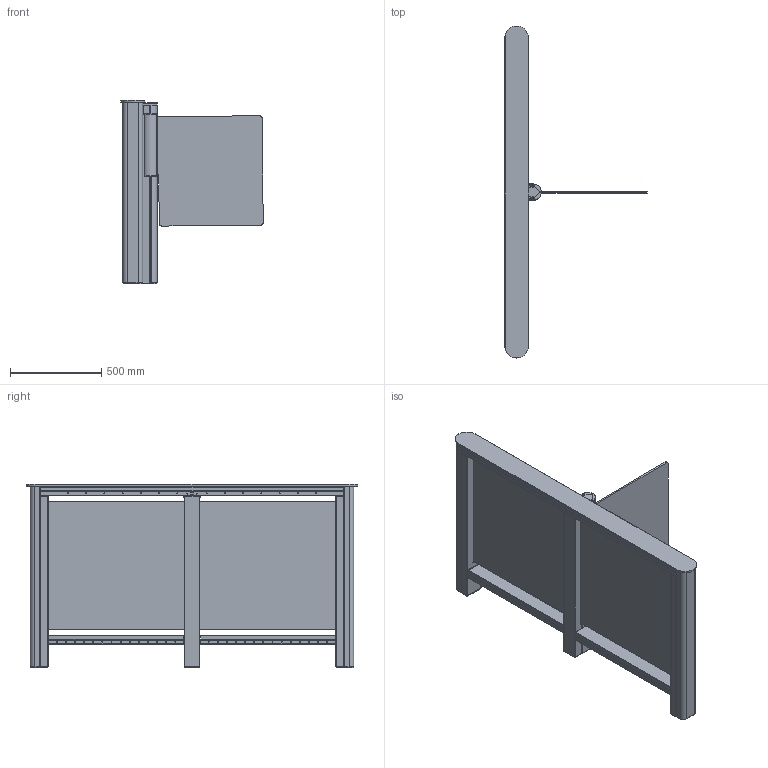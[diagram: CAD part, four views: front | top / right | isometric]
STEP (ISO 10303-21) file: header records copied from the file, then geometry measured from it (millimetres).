
FILE_DESCRIPTION(/* description */ ('Unknown'),/* implementation_level */ '2;1');
FILE_NAME(/* name */ 'ST-01_M_S_1200',/* time_stamp */ '2021-12-23T11:33:22+03:00',/* author */ ('Unknown'),/* organization */ ('Unknown'),/* preprocessor_version */ 'ST-DEVELOPER v18.1',/* originating_system */ 'Solid Edge',/* authorisation */ 'Unknown');
FILE_SCHEMA (('CONFIG_CONTROL_DESIGN'));
Products named in the file (113): ST-01_M_S; ST-01.1.006.00 砎魤鍱_oa_0; ST-01.1.002.00 栺鍣罻_oa_1; ST-01.1.002.02 砑僔蠂縺; ST-01.1.005.08 扻豵鵨; ST-01.1.031.00 沓劌錪 瀔魤鍱趌oa_2; ST-01.1.036.00 昜闉趌oa_3; BG65x25+PLG52+mufta_oa_4; ST-01.045.00ﾑﾁ ﾊ濱oa_5; ST-01.046.00 ﾊ濱oa_6; ST-01.046.09 Êîæóõ-Ïî óìîë÷àíèþ; ST-01.047.00 扰鍙欙樥燲oa_7; ST-01.760.00 Ïëàòà ýëåêòðîïðèâîäà_oa_8; ST-01.920.00 Êàáåëü ñîåäèíåíèÿ CAN; ST-01.1.004.00捘 昜闉趌oa_9; ST-01.008.00 ﾊ濱oa_10; ST-01.008.05 Êîæóõ; ST-01.008.00 ﾊ濱oa_11; ST-01.900.00 Êàáåëü ñîåäèíåíèÿ  DC; Äæàìïåð MJ-0_13; 淟檍瀖睯貗; ST-01.1.010.00ﾑﾁ ﾊ濱oa_12; ST-01.740.00 Ïëàòà èíäèêàòîðíîé ñòîéêè_oa_13; ST-01.1.010.10 Ñòåêëî-Ïî óìîë÷àíèþ; ST-01.1.011.00 ﾊ濱oa_14; ST-01.1.011.05 署赅; ST-01.1.009.00捘 扻豵鵨_oa_15; ST-01.009.25 Êîæóõ; ST-01.1.009.07 扻豵鵨; ST-01.013.00 扻豂塺oa_16; ST-01.1.016.00 扻豂塺oa_17; ST-01.1.015.00 扻豂塺oa_18; ST-01.1.015.05 Êîðîá; Øïèëüêè ñáîðêà_oa_19; Øïèëüêè ñáîðêà_oa_20; Øïèëüêè ñáîðêà 2_oa_21; Øïèëüêè ñáîðêà 2_oa_22; Øïèëüêè ñáîðêà_oa_23; Øïèëüêè ñáîðêà_oa_24; Øïèëüêè ñáîðêà 2_oa_25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
Assembly tree (137 placements, depth 5):
  ST-01_M_S
    ST-01.1.006.00 砎魤鍱_oa_0
      ST-01.1.002.00 栺鍣罻_oa_1
        ST-01.1.002.02 砑僔蠂縺
      ST-01.1.005.08 扻豵鵨
      ST-01.1.031.00 沓劌錪 瀔魤鍱趌oa_2
        ST-01.1.036.00 昜闉趌oa_3
        BG65x25+PLG52+mufta_oa_4
      ST-01.045.00ﾑﾁ ﾊ濱oa_5
        ST-01.046.00 ﾊ濱oa_6
          ST-01.046.09 Êîæóõ-Ïî óìîë÷àíèþ
        ST-01.047.00 扰鍙欙樥燲oa_7
      ST-01.760.00 Ïëàòà ýëåêòðîïðèâîäà_oa_8
      ST-01.920.00 Êàáåëü ñîåäèíåíèÿ CAN
      ST-01.1.004.00捘 昜闉趌oa_9
      ST-01.008.00 ﾊ濱oa_10
        ST-01.008.05 Êîæóõ
      ST-01.008.00 ﾊ濱oa_11
        ST-01.008.05 Êîæóõ
      ST-01.900.00 Êàáåëü ñîåäèíåíèÿ  DC
      Äæàìïåð MJ-0_13
      淟檍瀖睯貗  x3
    ST-01.1.010.00ﾑﾁ ﾊ濱oa_12
      ST-01.740.00 Ïëàòà èíäèêàòîðíîé ñòîéêè_oa_13
      ST-01.1.010.10 Ñòåêëî-Ïî óìîë÷àíèþ
      ST-01.1.011.00 ﾊ濱oa_14
        ST-01.1.011.05 署赅
      ST-01.1.009.00捘 扻豵鵨_oa_15
        ST-01.009.25 Êîæóõ
        ST-01.1.009.07 扻豵鵨
    ST-01.013.00 扻豂塺oa_16
      ST-01.1.016.00 扻豂塺oa_17
        ST-01.1.015.00 扻豂塺oa_18
          ST-01.1.015.05 Êîðîá
          Øïèëüêè ñáîðêà_oa_19
          Øïèëüêè ñáîðêà_oa_20
          Øïèëüêè ñáîðêà 2_oa_21
          Øïèëüêè ñáîðêà 2_oa_22
          Øïèëüêè ñáîðêà_oa_23
          Øïèëüêè ñáîðêà_oa_24
          Øïèëüêè ñáîðêà 2_oa_25
          Øïèëüêè ñáîðêà 2_oa_26
          Øïèëüêà âèðò
        ST-01.016.05 Êîðîá--01
      ST-01.017.00 Ïëàñòèíà â ñáîðå_oa_27
      ST-01.706.00 Ïëàòà ïðèåìíèêîâ_oa_28
      ST-01.706.00 Ïëàòà ïðèåìíèêîâ_oa_29
      ST-01.716.00 Ïëàòà ïðèåìíèêîâ_oa_30
      ST-01.716.00 Ïëàòà ïðèåìíèêîâ_oa_31
      ST-01.050.15 Ïëàñòèíà (ñâåòîôèëüòð)-795  x2
      Ëåíòà ìîíòàíæíàÿ äâóñòîðîííÿÿ 9473PC VHB 19 ìì_âèðò
      ST-01.014.00 扻豂塺oa_32
      ST-01.910.00 忺摎錪 膰豂摳 CAN_睯貗  x4
      ST-01.910.00-01 忺摎錪 膰豂摳 CAN_睯貗
      ST-01.910.00-02 忺摎錪 膰豂摳 CAN_睯貗  x3
      ST-01.931.00 忺摎錪 襜贀槻鍣 鴈儰罻灕醂睯貗
      ST-01.932.00 Êàáåëü èíäèêàöèè ñòîéêè_âèðò
      ST-01.940.00 Êàáåëü èíäèêàöèè ïðîõîäà_âèðò
      淟檍瀖睯貗  x5
      ST-01.050.15 Ïëàñòèíà (ñâåòîôèëüòð)-1662
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Bounding box: 780.18 x 1820 x 1004.7 mm (x, y, z)
Volume: 19422228.9 mm3; surface area: 9549432.4 mm2
Topology: 39 solids, 39 shells, 2767 faces, 7254 edges, 4537 vertices
Faces by surface type: plane 1977, cylinder 650, bspline 112, cone 28
Full cylindrical faces by diameter (mm): 3.3 x46, 3.5 x8, 4 x4, 5 x104, 5.5 x6, 6 x4, 7 x17, 11 x15, 12 x13, 13.5 x2, 16 x4, 87 x1
Entity records: 71070 total; most frequent: CARTESIAN_POINT 15046, ORIENTED_EDGE 11036, DIRECTION 10706, EDGE_CURVE 5518, LINE 4272, VECTOR 4272, VERTEX_POINT 3566, AXIS2_PLACEMENT_3D 3217
